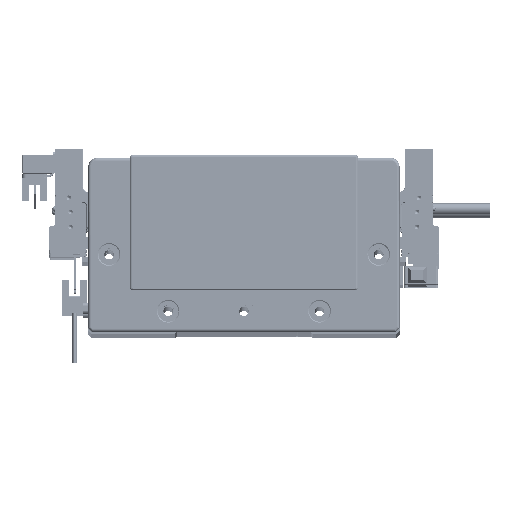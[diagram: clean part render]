
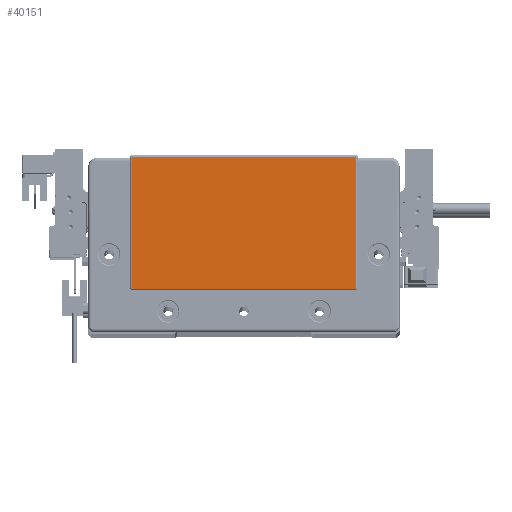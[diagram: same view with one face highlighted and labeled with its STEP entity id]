
A CAD part, top view. The second image highlights one B-rep face of the part: STEP entity #40151.
In plain terms, the highlighted planar face has unit normal (0, 0, 1) as drawn and (0, 0, -1) by its records, which use the part's own axes.
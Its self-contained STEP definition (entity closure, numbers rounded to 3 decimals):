
#640 = VERTEX_POINT ( 'NONE', #93127 ) ;
#1579 = CIRCLE ( 'NONE', #92276, 0.5 ) ;
#6296 = CARTESIAN_POINT ( 'NONE',  ( 59.25, 45.3, -2. ) ) ;
#7226 = ORIENTED_EDGE ( 'NONE', *, *, #98466, .T. ) ;
#7458 = AXIS2_PLACEMENT_3D ( 'NONE', #31740, #113918, #94466 ) ;
#7538 = VERTEX_POINT ( 'NONE', #6296 ) ;
#10423 = VECTOR ( 'NONE', #102679, 1000. ) ;
#12085 = ORIENTED_EDGE ( 'NONE', *, *, #66718, .T. ) ;
#12352 = EDGE_CURVE ( 'NONE', #7538, #97981, #54374, .T. ) ;
#12645 = VERTEX_POINT ( 'NONE', #85137 ) ;
#15298 = EDGE_CURVE ( 'NONE', #12645, #7538, #79234, .T. ) ;
#15731 = EDGE_CURVE ( 'NONE', #34082, #26712, #94517, .T. ) ;
#16822 = CARTESIAN_POINT ( 'NONE',  ( -59.25, 45.3, -2. ) ) ;
#18800 = AXIS2_PLACEMENT_3D ( 'NONE', #27872, #46804, #55092 ) ;
#23865 = DIRECTION ( 'NONE',  ( 0., 0., -1. ) ) ;
#26712 = VERTEX_POINT ( 'NONE', #65414 ) ;
#27731 = ORIENTED_EDGE ( 'NONE', *, *, #53937, .T. ) ;
#27872 = CARTESIAN_POINT ( 'NONE',  ( 58.75, -23.3, -2. ) ) ;
#29657 = CARTESIAN_POINT ( 'NONE',  ( -58.75, 45.3, -2. ) ) ;
#29768 = CARTESIAN_POINT ( 'NONE',  ( -58.75, -23.8, -2. ) ) ;
#30542 = LINE ( 'NONE', #87269, #10423 ) ;
#31740 = CARTESIAN_POINT ( 'NONE',  ( 58.75, 45.3, -2. ) ) ;
#34082 = VERTEX_POINT ( 'NONE', #16822 ) ;
#34180 = CARTESIAN_POINT ( 'NONE',  ( 59.25, -23.3, -2. ) ) ;
#36409 = ORIENTED_EDGE ( 'NONE', *, *, #86686, .T. ) ;
#36598 = ORIENTED_EDGE ( 'NONE', *, *, #12352, .T. ) ;
#40151 = ADVANCED_FACE ( 'NONE', ( #97188 ), #71746, .T. ) ;
#41293 = VERTEX_POINT ( 'NONE', #62884 ) ;
#43067 = CARTESIAN_POINT ( 'NONE',  ( -58.75, -23.3, -2. ) ) ;
#44370 = CARTESIAN_POINT ( 'NONE',  ( 59.25, -23.3, -2. ) ) ;
#45090 = VECTOR ( 'NONE', #68413, 1000. ) ;
#46804 = DIRECTION ( 'NONE',  ( 0., 0., -1. ) ) ;
#53937 = EDGE_CURVE ( 'NONE', #41293, #66326, #30542, .T. ) ;
#54105 = CARTESIAN_POINT ( 'NONE',  ( 58.75, 45.8, -2. ) ) ;
#54374 = LINE ( 'NONE', #44370, #96386 ) ;
#55092 = DIRECTION ( 'NONE',  ( -1., 0., 0. ) ) ;
#62118 = DIRECTION ( 'NONE',  ( 0., -1., 0. ) ) ;
#62884 = CARTESIAN_POINT ( 'NONE',  ( 58.75, -23.8, -2. ) ) ;
#63008 = LINE ( 'NONE', #54105, #103872 ) ;
#63958 = EDGE_CURVE ( 'NONE', #66326, #640, #1579, .T. ) ;
#65414 = CARTESIAN_POINT ( 'NONE',  ( -58.75, 45.8, -2. ) ) ;
#66326 = VERTEX_POINT ( 'NONE', #29768 ) ;
#66687 = ORIENTED_EDGE ( 'NONE', *, *, #15298, .T. ) ;
#66718 = EDGE_CURVE ( 'NONE', #97981, #41293, #69819, .T. ) ;
#68413 = DIRECTION ( 'NONE',  ( 0., 1., 0. ) ) ;
#69819 = CIRCLE ( 'NONE', #18800, 0.5 ) ;
#71746 = PLANE ( 'NONE',  #99604 ) ;
#74633 = DIRECTION ( 'NONE',  ( -1., 0., 0. ) ) ;
#77275 = LINE ( 'NONE', #113335, #45090 ) ;
#79234 = CIRCLE ( 'NONE', #7458, 0.5 ) ;
#81915 = DIRECTION ( 'NONE',  ( 1., 0., 0. ) ) ;
#85137 = CARTESIAN_POINT ( 'NONE',  ( 58.75, 45.8, -2. ) ) ;
#86271 = DIRECTION ( 'NONE',  ( -1., 0., 0. ) ) ;
#86686 = EDGE_CURVE ( 'NONE', #26712, #12645, #63008, .T. ) ;
#87269 = CARTESIAN_POINT ( 'NONE',  ( -58.75, -23.8, -2. ) ) ;
#89492 = CARTESIAN_POINT ( 'NONE',  ( 0., 0., -2. ) ) ;
#90715 = AXIS2_PLACEMENT_3D ( 'NONE', #29657, #93545, #74633 ) ;
#92276 = AXIS2_PLACEMENT_3D ( 'NONE', #43067, #97470, #86271 ) ;
#93127 = CARTESIAN_POINT ( 'NONE',  ( -59.25, -23.3, -2. ) ) ;
#93545 = DIRECTION ( 'NONE',  ( 0., 0., -1. ) ) ;
#93810 = ORIENTED_EDGE ( 'NONE', *, *, #15731, .T. ) ;
#94466 = DIRECTION ( 'NONE',  ( -1., 0., 0. ) ) ;
#94517 = CIRCLE ( 'NONE', #90715, 0.5 ) ;
#96386 = VECTOR ( 'NONE', #62118, 1000. ) ;
#97188 = FACE_OUTER_BOUND ( 'NONE', #113554, .T. ) ;
#97470 = DIRECTION ( 'NONE',  ( 0., 0., -1. ) ) ;
#97981 = VERTEX_POINT ( 'NONE', #34180 ) ;
#98466 = EDGE_CURVE ( 'NONE', #640, #34082, #77275, .T. ) ;
#99604 = AXIS2_PLACEMENT_3D ( 'NONE', #89492, #23865, #108375 ) ;
#102679 = DIRECTION ( 'NONE',  ( -1., 0., 0. ) ) ;
#103872 = VECTOR ( 'NONE', #81915, 1000. ) ;
#108375 = DIRECTION ( 'NONE',  ( -1., 0., 0. ) ) ;
#110931 = ORIENTED_EDGE ( 'NONE', *, *, #63958, .T. ) ;
#113335 = CARTESIAN_POINT ( 'NONE',  ( -59.25, 45.3, -2. ) ) ;
#113554 = EDGE_LOOP ( 'NONE', ( #36598, #12085, #27731, #110931, #7226, #93810, #36409, #66687 ) ) ;
#113918 = DIRECTION ( 'NONE',  ( 0., 0., -1. ) ) ;
